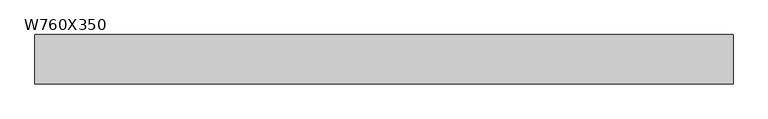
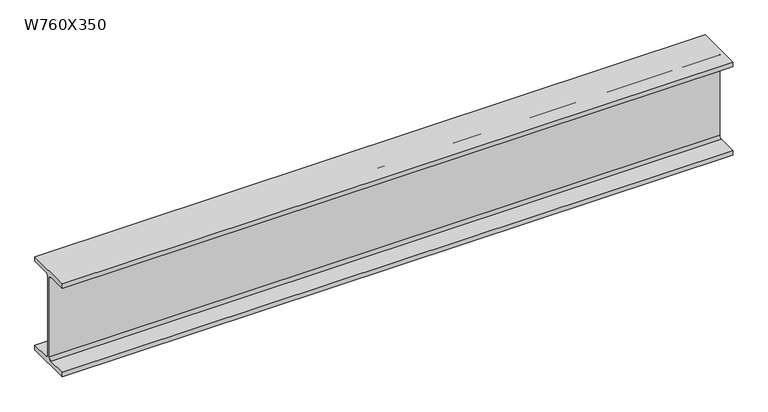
"""IFC4 building model written with IfcOpenShell, lengths in millimetres: beam geometry, M_W-Wide Flange : W760X350."""

import ifcopenshell
import ifcopenshell.guid

model = None  # the IFC model being written
_history = None  # IfcOwnerHistory: only IFC2X3 demands one
_inside = {}  # id of a spatial element -> (the spatial element, [elements in it])
_under = {}  # id of a project, library or spatial element -> (it, [spatial elements below it])
_declared = {}  # id of a project -> (the project, [libraries it declares])
_typed = {}  # id of a type object -> (the type object, [elements of that type])
_made_of = {}  # id of a material, layer set ... -> (it, [elements and type objects made of it])


def new_model(schema):
    """Start an empty IFC model of exactly this schema.

    Asked for "IFC4X3", IfcOpenShell would pick the latest addendum, in which some entities
    have other attributes; the version numbers below select the first issue.
    IFC2X3 requires an IfcOwnerHistory on every rooted entity: one is made here for all.
    """
    global model, _history
    if schema == "IFC4X3":
        model = ifcopenshell.file(schema_version=(4, 3, 0, 0))
    else:
        model = ifcopenshell.file(schema=schema)
    _inside.clear()
    _under.clear()
    _declared.clear()
    _typed.clear()
    _made_of.clear()
    _history = None
    if model.schema == "IFC2X3":
        org = make("IfcOrganization", Name="unknown")
        user = make(
            "IfcPersonAndOrganization",
            ThePerson=make("IfcPerson", FamilyName="unknown"),
            TheOrganization=org,
        )
        app = make(
            "IfcApplication",
            ApplicationDeveloper=org,
            Version="unknown",
            ApplicationFullName="unknown",
            ApplicationIdentifier="unknown",
        )
        _history = make(
            "IfcOwnerHistory",
            OwningUser=user,
            OwningApplication=app,
            ChangeAction="ADDED",
            CreationDate=0,
        )
    return model


def make(cls, **values):
    """One entity of the class cls with the attributes given. An attribute that is None is left unset."""
    return model.create_entity(
        cls, **{name: value for name, value in values.items() if value is not None}
    )


def rooted(cls, **values):
    """An entity with a GlobalId (a new one), such as an element, a storey or a relation."""
    return make(cls, GlobalId=ifcopenshell.guid.new(), OwnerHistory=_history, **values)


def si_unit(unit_type, name, prefix=None):
    """IfcSIUnit, for example si_unit("LENGTHUNIT", "METRE", prefix="MILLI")."""
    return make("IfcSIUnit", UnitType=unit_type, Prefix=prefix, Name=name)


def assignment(units):
    """IfcUnitAssignment: the units of a project."""
    return None if units is None else make("IfcUnitAssignment", Units=units)


def point(xyz):
    """IfcCartesianPoint."""
    return None if xyz is None else make("IfcCartesianPoint", Coordinates=xyz)


def direction(xyz):
    """IfcDirection."""
    return None if xyz is None else make("IfcDirection", DirectionRatios=xyz)


def frame(location, z_axis=None, x_axis=None):
    """IfcAxis2Placement3D, a coordinate frame: its origin and axes. An axis left out is left unset."""
    return make(
        "IfcAxis2Placement3D",
        Location=point(location),
        Axis=direction(z_axis),
        RefDirection=direction(x_axis),
    )


def frame_2d(location, x_axis=None):
    """IfcAxis2Placement2D, a coordinate frame in the plane: its origin and x axis."""
    return make(
        "IfcAxis2Placement2D", Location=point(location), RefDirection=direction(x_axis)
    )


def origin():
    """The frame at (0, 0, 0) with its axes left unset."""
    return frame((0.0, 0.0, 0.0))


def place(relative_to, where):
    """IfcLocalPlacement: puts the frame where relative to a parent placement (None: the world)."""
    return make(
        "IfcLocalPlacement", PlacementRelTo=relative_to, RelativePlacement=where
    )


def context(
    kind, dimensions, precision=None, world=None, true_north=None, identifier=None
):
    """IfcGeometricRepresentationContext, for example the 3D "Model" context."""
    return make(
        "IfcGeometricRepresentationContext",
        ContextIdentifier=identifier,
        ContextType=kind,
        CoordinateSpaceDimension=dimensions,
        Precision=precision,
        WorldCoordinateSystem=world,
        TrueNorth=true_north,
    )


def project(units=None, contexts=None):
    """IfcProject with its units and contexts."""
    return rooted(
        "IfcProject",
        Name="project",
        RepresentationContexts=contexts,
        UnitsInContext=assignment(units),
    )


def spatial(cls, under=None, at=None, **own):
    """A site, building, storey or space (cls), placed at a placement, below another one or the project."""
    s = rooted(cls, ObjectPlacement=at, **own)
    if under is not None:
        _under.setdefault(under.id(), (under, []))[1].append(s)
    return s


def polyline(points):
    """IfcPolyline through the points."""
    return make("IfcPolyline", Points=[point(p) for p in points])


def circle_curve(where, radius):
    """IfcCircle in the frame where."""
    return make("IfcCircle", Position=where, Radius=radius)


def trimmed(basis, trim1, trim2, sense, master):
    """IfcTrimmedCurve: the piece of a basis curve between two trims."""
    return make(
        "IfcTrimmedCurve",
        BasisCurve=basis,
        Trim1=trim1,
        Trim2=trim2,
        SenseAgreement=sense,
        MasterRepresentation=master,
    )


def segment(curve, same_sense, transition):
    """IfcCompositeCurveSegment."""
    return make(
        "IfcCompositeCurveSegment",
        Transition=transition,
        SameSense=same_sense,
        ParentCurve=curve,
    )


def composite_curve(segments, self_intersect=None):
    """IfcCompositeCurve: segments joined end to end."""
    return make("IfcCompositeCurve", Segments=segments, SelfIntersect=self_intersect)


def outline(outer, holes=None, kind="AREA"):
    """IfcArbitraryClosedProfileDef: a profile drawn as a closed curve; with holes, ...WithVoids."""
    if holes is None:
        return make("IfcArbitraryClosedProfileDef", ProfileType=kind, OuterCurve=outer)
    return make(
        "IfcArbitraryProfileDefWithVoids",
        ProfileType=kind,
        OuterCurve=outer,
        InnerCurves=holes,
    )


def extrude(swept, where, along, depth):
    """IfcExtrudedAreaSolid: the profile swept, set in the frame where, extruded along a direction by depth."""
    return make(
        "IfcExtrudedAreaSolid",
        SweptArea=swept,
        Position=where,
        ExtrudedDirection=direction(along),
        Depth=depth,
    )


def shape(context_of_items, identifier, shape_type, items):
    """IfcShapeRepresentation: the items that make up one representation, for example the "Body"."""
    return make(
        "IfcShapeRepresentation",
        ContextOfItems=context_of_items,
        RepresentationIdentifier=identifier,
        RepresentationType=shape_type,
        Items=items,
    )


def source(mapping_origin, context_of_items, identifier, shape_type, items):
    """IfcRepresentationMap: a shape defined once, which mapped items show again and again."""
    return make(
        "IfcRepresentationMap",
        MappingOrigin=mapping_origin,
        MappedRepresentation=shape(context_of_items, identifier, shape_type, items),
    )


def transform(
    local_origin,
    x_axis=None,
    y_axis=None,
    z_axis=None,
    scale=None,
    scale2=None,
    scale3=None,
    uniform=True,
):
    """IfcCartesianTransformationOperator3D, or its non-uniform kind. x_axis, y_axis, z_axis: its Axis1, 2, 3."""
    if uniform:
        return make(
            "IfcCartesianTransformationOperator3D",
            Axis1=direction(x_axis),
            Axis2=direction(y_axis),
            LocalOrigin=point(local_origin),
            Scale=scale,
            Axis3=direction(z_axis),
        )
    return make(
        "IfcCartesianTransformationOperator3DnonUniform",
        Axis1=direction(x_axis),
        Axis2=direction(y_axis),
        LocalOrigin=point(local_origin),
        Scale=scale,
        Axis3=direction(z_axis),
        Scale2=scale2,
        Scale3=scale3,
    )


def mapped(mapping_source, mapping_target):
    """IfcMappedItem: shows the shape of a source again, moved by a transform."""
    return make(
        "IfcMappedItem", MappingSource=mapping_source, MappingTarget=mapping_target
    )


def made_of(thing, what):
    """Note that an element or type object is made of a material, layer set ...; save() writes the relation."""
    if what is not None:
        _made_of.setdefault(what.id(), (what, []))[1].append(thing)
    return thing


def element(
    cls,
    number,
    at=None,
    inside=None,
    cuts=None,
    type_object=None,
    material=None,
    context=None,
    identifier="Body",
    shape_type=None,
    held_by="IfcProductDefinitionShape",
    body=None,
    shapes=None,
    **own,
):
    """One element of the class cls, such as IfcWall. Its Tag is "e" and its number.

    at: its placement. inside: the storey or other place that contains it. cuts: it is an
    opening in that element (IfcRelVoidsElement). A single representation is given by context,
    identifier, shape_type and body (its items); several are given by shapes. held_by: the class
    of the entity that holds the representations. save() writes the other relations.
    """
    e = rooted(cls, Tag="e%d" % number, ObjectPlacement=at, **own)
    if body is not None:
        shapes = [shape(context, identifier, shape_type, body)]
    if shapes is not None:
        e.Representation = make(held_by, Representations=shapes)
    if inside is not None:
        _inside.setdefault(inside.id(), (inside, []))[1].append(e)
    if cuts is not None:
        rooted(
            "IfcRelVoidsElement", RelatingBuildingElement=cuts, RelatedOpeningElement=e
        )
    if type_object is not None:
        _typed.setdefault(type_object.id(), (type_object, []))[1].append(e)
    return made_of(e, material)


def aggregate(whole, parts):
    """IfcRelAggregates: a whole, such as a stair, and the parts it consists of."""
    return rooted("IfcRelAggregates", RelatingObject=whole, RelatedObjects=parts)


def save(model, path):
    """Write the relations noted so far, then the file.

    IfcRelAggregates (storeys below a building ...), IfcRelContainedInSpatialStructure (elements
    in a storey), IfcRelDefinesByType, IfcRelAssociatesMaterial and IfcRelDeclares: one each for
    every whole, place, type object, material and project.
    """
    for whole, parts in _under.values():
        aggregate(whole, parts)
    for where, things in _inside.values():
        rooted(
            "IfcRelContainedInSpatialStructure",
            RelatedElements=things,
            RelatingStructure=where,
        )
    for kind, things in _typed.values():
        rooted("IfcRelDefinesByType", RelatedObjects=things, RelatingType=kind)
    for what, things in _made_of.values():
        rooted("IfcRelAssociatesMaterial", RelatedObjects=things, RelatingMaterial=what)
    for by, libraries in _declared.values():
        rooted("IfcRelDeclares", RelatingContext=by, RelatedDefinitions=libraries)
    model.write(path)


def w760x350_85be410d(model_context):
    return source(origin(), model_context, "Body", "SweptSolid", [
        extrude(outline(composite_curve([segment(polyline([(192.0, -359.4), (192.0, -397.5), (-192.0, -397.5), (-192.0, -359.4), (-32.75, -359.4)]), True, "CONTINUOUS"), segment(trimmed(circle_curve(frame_2d((-32.75, -337.2)), 22.2), [point((-32.75, -359.4))], [point((-10.55, -337.2))], True, "CARTESIAN"), True, "CONTINUOUS"), segment(polyline([(-10.55, -337.2), (-10.55, 337.2)]), True, "CONTINUOUS"), segment(trimmed(circle_curve(frame_2d((-32.75, 337.2)), 22.2), [point((-10.55, 337.2))], [point((-32.75, 359.4))], True, "CARTESIAN"), True, "CONTINUOUS"), segment(polyline([(-32.75, 359.4), (-192.0, 359.4), (-192.0, 397.5), (192.0, 397.5), (192.0, 359.4), (32.75, 359.4)]), True, "CONTINUOUS"), segment(trimmed(circle_curve(frame_2d((32.75, 337.2)), 22.2), [point((32.75, 359.4))], [point((10.55, 337.2))], True, "CARTESIAN"), True, "CONTINUOUS"), segment(polyline([(10.55, 337.2), (10.55, -337.2)]), True, "CONTINUOUS"), segment(trimmed(circle_curve(frame_2d((32.75, -337.2)), 22.2), [point((10.55, -337.2))], [point((32.75, -359.4))], True, "CARTESIAN"), True, "CONTINUOUS"), segment(polyline([(32.75, -359.4), (192.0, -359.4)]), True, "CONTINUOUS")], self_intersect=False)), frame((-2605.8, 0.0, 0.0), z_axis=(1.0, 0.0, 0.0), x_axis=(0.0, 1.0, 0.0)), (0.0, 0.0, 1.0), 5422.16596),
    ])


if __name__ == "__main__":
    model = new_model("IFC4")
    model_context = context("Model", 3, world=origin())
    ifc_project = project(units=[si_unit("LENGTHUNIT", "METRE", prefix="MILLI")], contexts=[model_context])
    site = spatial("IfcSite", under=ifc_project)
    building = spatial("IfcBuilding", under=site)
    placement = place(None, origin())
    w760x350_shape = w760x350_85be410d(model_context)
    element("IfcBeam", 1, ObjectType="M_W-Wide Flange : W760X350", at=placement, inside=building, context=model_context, shape_type="MappedRepresentation", body=[
        mapped(w760x350_shape, transform((0.0, 0.0, 0.0), x_axis=(1.0, 0.0, 0.0), y_axis=(0.0, 1.0, 0.0), z_axis=(0.0, 0.0, 1.0))),
    ])
    save(model, "model.ifc")
